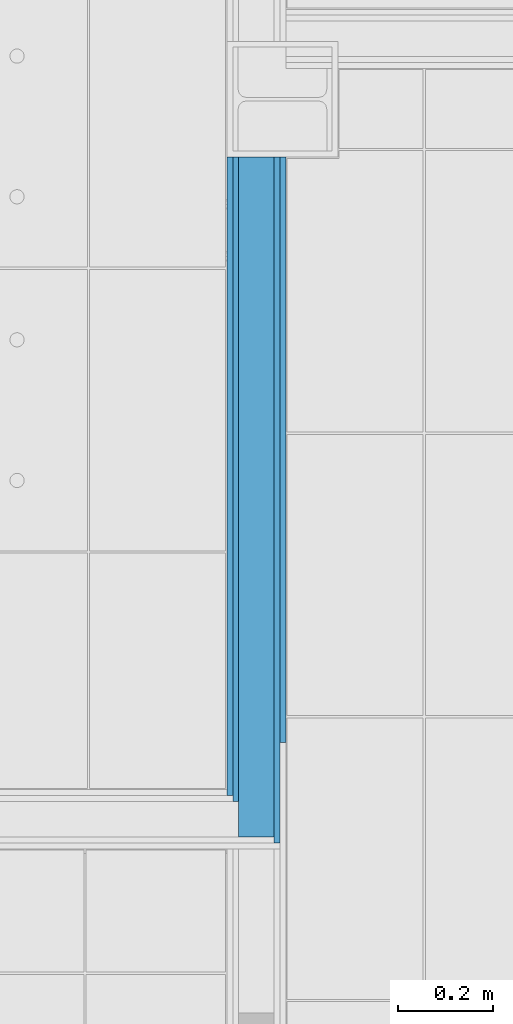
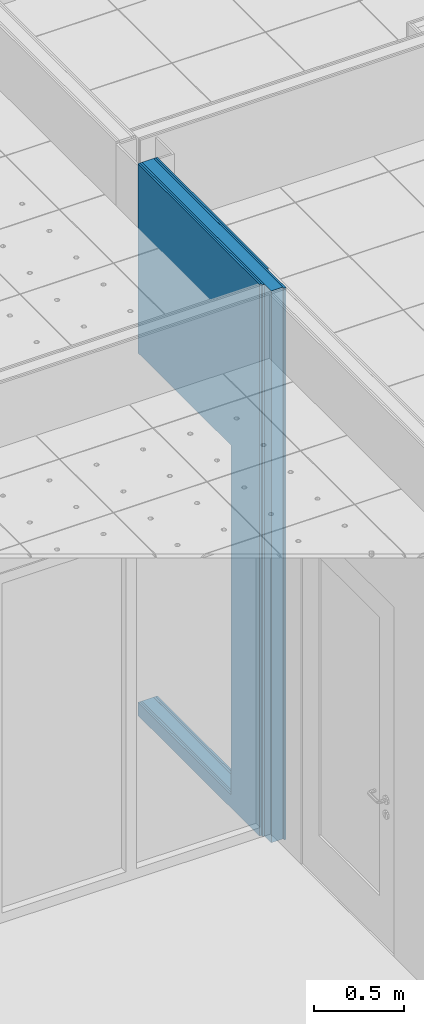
# One storey, part 83 of 338: 5 building element parts, 1 opening, 1 element without a shape of its own.
"""IFC2X3 building model written with IfcOpenShell, lengths in millimetres."""

from ifc_helpers import new_model, entity, si_unit, converted_unit, derived_unit, money_unit, direction, frame, origin_with_axes, place, context, subcontext, project, spatial, faceted_brep, material, type_object, element, aggregate, save


model = new_model("IFC2X3")

# Units and contexts
model_context = context("Model", 3, precision=0.01, world=origin_with_axes(), true_north=direction((0.0, 1.0)))
plan_context = context("Plan", 3, precision=0.01, world=origin_with_axes(), true_north=direction((0.0, 1.0)))
body_context = subcontext(model_context, "Body", "Model", "MODEL_VIEW")
ifc_project = project(units=[si_unit("LENGTHUNIT", "METRE", prefix="MILLI"), si_unit("AREAUNIT", "SQUARE_METRE"), si_unit("VOLUMEUNIT", "CUBIC_METRE"), converted_unit("PLANEANGLEUNIT", "DEGREE", entity("IfcPlaneAngleMeasure", 0.0174532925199), si_unit("PLANEANGLEUNIT", "RADIAN"), dimensions=[0, 0, 0, 0, 0, 0, 0]), money_unit("EUR"), converted_unit("TIMEUNIT", "Year", entity("IfcTimeMeasure", 31556926.0), si_unit("TIMEUNIT", "SECOND"), dimensions=[0, 0, 1, 0, 0, 0, 0]), si_unit("MASSUNIT", "GRAM", prefix="KILO"), si_unit("THERMODYNAMICTEMPERATUREUNIT", "DEGREE_CELSIUS"), si_unit("LUMINOUSINTENSITYUNIT", "LUMEN"), si_unit("ENERGYUNIT", "JOULE", prefix="MEGA"), derived_unit("THERMALCONDUCTANCEUNIT", [(si_unit("POWERUNIT", "WATT"), 1), (si_unit("LENGTHUNIT", "METRE"), -1), (si_unit("THERMODYNAMICTEMPERATUREUNIT", "KELVIN"), -1)]), derived_unit("SPECIFICHEATCAPACITYUNIT", [(si_unit("ENERGYUNIT", "JOULE"), 1), (si_unit("MASSUNIT", "GRAM", prefix="KILO"), -1), (si_unit("THERMODYNAMICTEMPERATUREUNIT", "KELVIN"), -1)]), derived_unit("MASSDENSITYUNIT", [(si_unit("MASSUNIT", "GRAM", prefix="KILO"), 1), (si_unit("VOLUMEUNIT", "CUBIC_METRE"), -1)])], contexts=[model_context, plan_context])

# Site, building, storey
site_placement = place(None, origin_with_axes())
site = spatial("IfcSite", under=ifc_project, at=site_placement, Name="Fortuinstraat Woensdrecht", CompositionType="ELEMENT")
building_placement = place(site_placement, origin_with_axes())
building = spatial("IfcBuilding", under=site, at=building_placement, Name="IKC Fortuna", CompositionType="ELEMENT")
storey_placement = place(building_placement, origin_with_axes())
storey = spatial("IfcBuildingStorey", under=building, at=storey_placement, Name="00 begane grond", CompositionType="ELEMENT", Elevation=0.0)

# Wall, opening, building element parts
wall_type = type_object("IfcWallType", Name="MS125 2.75.2A 125", PredefinedType="NOTDEFINED")
wall_placement = place(storey_placement, frame((20451.9349765, 27944.7966283, -90.0), z_axis=(0.0, 0.0, 1.0), x_axis=(0.0, -1.0, 0.0)))
wall = element("IfcWall", 1, at=wall_placement, inside=storey, type_object=wall_type, Name="22_Wand_Binnenwand")
opening_placement = place(wall_placement, frame((517.0, 0.0, 90.0), z_axis=(0.0, 0.0, 1.0), x_axis=(1.0, 0.0, 0.0)))
element("IfcOpeningElement", 2, at=opening_placement, cuts=wall, Name="32_Deur_h.01c", context=body_context, shape_type="Brep", body=[
    faceted_brep([(517.0, 250.0, 0.0), (517.0, 250.0, 2367.0), (517.0, -125.0, 2367.0), (517.0, -125.0, 0.0), (-517.0, 250.0, 0.0), (-517.0, 250.0, 2367.0), (-517.0, -125.0, 2367.0), (-517.0, -125.0, 0.0)], [[[0, 1, 2, 3]], [[0, 4, 5, 1]], [[1, 5, 6, 2]], [[3, 2, 6, 7]], [[4, 0, 3, 7]], [[5, 4, 7, 6]]]),
])
ifc_material_1 = material(Name="Gipsplaat")
building_element_part_1_placement = place(wall_placement, origin_with_axes())
building_element_part_1 = element("IfcBuildingElementPart", 3, at=building_element_part_1_placement, material=ifc_material_1, Name="Gipsplaat", context=body_context, shape_type="Brep", body=[
    faceted_brep([(1034.0, 125.0, 90.0), (1034.0, 125.0, 2457.0), (0.0, 125.0, 2457.0), (0.0, 125.0, 3740.0), (1237.68560163, 125.0, 3740.0), (1237.68560163, 125.0, 0.0), (0.0, 125.0, 0.0), (0.0, 125.0, 90.0), (1034.0, 112.5, 90.0), (1034.0, 112.5, 2457.0), (0.0, 112.5, 2457.0), (0.0, 112.5, 3740.0), (1237.68560163, 112.5, 3740.0), (1237.68560163, 112.5, 0.0), (0.0, 112.5, 0.0), (0.0, 112.5, 90.0)], [[[0, 1, 2, 3, 4, 5, 6, 7]], [[1, 0, 8, 9]], [[10, 2, 1, 9]], [[2, 10, 11, 3]], [[4, 3, 11, 12]], [[4, 12, 13, 5]], [[13, 14, 6, 5]], [[15, 7, 6, 14]], [[0, 7, 15, 8]], [[8, 15, 14, 13, 12, 11, 10, 9]]]),
])
building_element_part_2_placement = place(wall_placement, origin_with_axes())
building_element_part_2 = element("IfcBuildingElementPart", 4, at=building_element_part_2_placement, material=ifc_material_1, Name="Gipsplaat", context=body_context, shape_type="Brep", body=[
    faceted_brep([(1034.0, 112.5, 90.0), (1034.0, 112.5, 2457.0), (0.0, 112.5, 2457.0), (0.0, 112.5, 3740.0), (1450.18560163, 112.5, 3740.0), (1450.18560163, 112.5, 0.0), (0.0, 112.5, 0.0), (0.0, 112.5, 90.0), (1034.0, 100.0, 90.0), (1034.0, 100.0, 2457.0), (0.0, 100.0, 2457.0), (0.0, 100.0, 3740.0), (1450.18560163, 100.0, 3740.0), (1450.18560163, 100.0, 0.0), (0.0, 100.0, 0.0), (0.0, 100.0, 90.0)], [[[0, 1, 2, 3, 4, 5, 6, 7]], [[1, 0, 8, 9]], [[10, 2, 1, 9]], [[2, 10, 11, 3]], [[4, 3, 11, 12]], [[12, 13, 5, 4]], [[13, 14, 6, 5]], [[15, 7, 6, 14]], [[0, 7, 15, 8]], [[8, 15, 14, 13, 12, 11, 10, 9]]]),
])
ifc_material_2 = material(Name="Isolatie - Steenwol LSW")
building_element_part_3_placement = place(wall_placement, origin_with_axes())
building_element_part_3 = element("IfcBuildingElementPart", 5, at=building_element_part_3_placement, material=ifc_material_2, Name="Isolatie - Steenwol LSW", context=body_context, shape_type="Brep", body=[
    faceted_brep([(1034.0, 100.0, 90.0), (1034.0, 100.0, 2457.0), (0.0, 100.0, 2457.0), (0.0, 100.0, 3740.0), (1437.68560163, 100.0, 3740.0), (1437.68560163, 100.0, 0.0), (0.0, 100.0, 0.0), (0.0, 100.0, 90.0), (1034.0, 25.0, 90.0), (1034.0, 25.0, 2457.0), (0.0, 25.0, 2457.0), (0.0, 25.0, 3740.0), (1437.68560163, 25.0, 3740.0), (1437.68560163, 25.0, 0.0), (0.0, 25.0, 0.0), (0.0, 25.0, 90.0)], [[[0, 1, 2, 3, 4, 5, 6, 7]], [[1, 0, 8, 9]], [[10, 2, 1, 9]], [[2, 10, 11, 3]], [[4, 3, 11, 12]], [[12, 13, 5, 4]], [[13, 14, 6, 5]], [[15, 7, 6, 14]], [[0, 7, 15, 8]], [[8, 15, 14, 13, 12, 11, 10, 9]]]),
])
building_element_part_4_placement = place(wall_placement, origin_with_axes())
building_element_part_4 = element("IfcBuildingElementPart", 6, at=building_element_part_4_placement, material=ifc_material_1, Name="Gipsplaat", context=body_context, shape_type="Brep", body=[
    faceted_brep([(1034.0, 25.0, 90.0), (1034.0, 25.0, 2457.0), (0.0, 25.0, 2457.0), (0.0, 25.0, 3740.0), (1362.68560163, 25.0, 3740.0), (1362.68560163, 25.0, 0.0), (0.0, 25.0, 0.0), (0.0, 25.0, 90.0), (1034.0, 12.5, 90.0), (1034.0, 12.5, 2457.0), (0.0, 12.5, 2457.0), (0.0, 12.5, 3740.0), (1362.68560163, 12.5, 3740.0), (1362.68560163, 12.5, 0.0), (0.0, 12.5, 0.0), (0.0, 12.5, 90.0)], [[[0, 1, 2, 3, 4, 5, 6, 7]], [[1, 0, 8, 9]], [[10, 2, 1, 9]], [[2, 10, 11, 3]], [[4, 3, 11, 12]], [[12, 13, 5, 4]], [[13, 14, 6, 5]], [[15, 7, 6, 14]], [[0, 7, 15, 8]], [[8, 15, 14, 13, 12, 11, 10, 9]]]),
])
building_element_part_5_placement = place(wall_placement, origin_with_axes())
building_element_part_5 = element("IfcBuildingElementPart", 7, at=building_element_part_5_placement, material=ifc_material_1, Name="Gipsplaat", context=body_context, shape_type="Brep", body=[
    faceted_brep([(1034.0, 12.5, 90.0), (1034.0, 12.5, 2457.0), (0.0, 12.5, 2457.0), (0.0, 12.5, 3740.0), (1350.18560163, 12.5, 3740.0), (1350.18560163, 12.5, 0.0), (0.0, 12.5, 0.0), (0.0, 12.5, 90.0), (1034.0, 0.0, 90.0), (1034.0, 0.0, 2457.0), (0.0, 0.0, 2457.0), (0.0, 0.0, 3740.0), (1350.18560163, 0.0, 3740.0), (1350.18560163, 0.0, 0.0), (0.0, 0.0, 0.0), (0.0, 0.0, 90.0)], [[[0, 1, 2, 3, 4, 5, 6, 7]], [[1, 0, 8, 9]], [[10, 2, 1, 9]], [[2, 10, 11, 3]], [[4, 3, 11, 12]], [[12, 13, 5, 4]], [[13, 14, 6, 5]], [[15, 7, 6, 14]], [[0, 7, 15, 8]], [[8, 15, 14, 13, 12, 11, 10, 9]]]),
])
aggregate(wall, [building_element_part_1, building_element_part_2, building_element_part_3, building_element_part_4, building_element_part_5])

save(model, "model.ifc")
